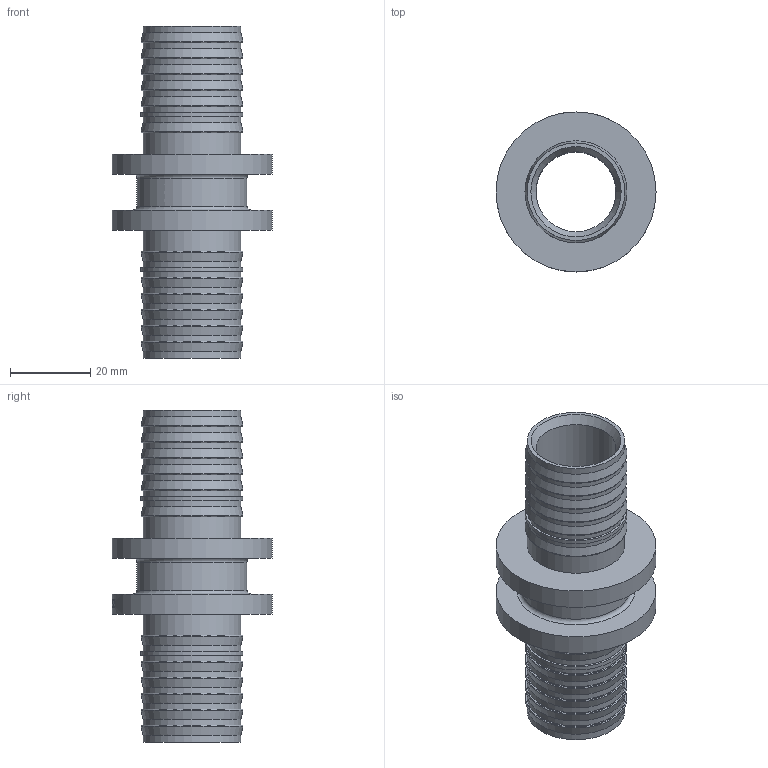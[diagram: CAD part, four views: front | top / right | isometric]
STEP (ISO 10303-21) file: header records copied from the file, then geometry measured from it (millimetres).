
FILE_DESCRIPTION(/* description */ (''),/* implementation_level */ '2;1');
FILE_NAME(/* name */ 'C:\Users\Doom\Desktop\Фадотех\Натяжка\SFM04_NEW 29.05.2020\SFM04_NEW 29.05.2020.stp',/* time_stamp */ '2022-07-25T12:52:27+03:00',/* author */ ('Doom'),/* organization */ (''),/* preprocessor_version */ 'ST-DEVELOPER v18',/* originating_system */ 'Autodesk Inventor 2020',/* authorisation */ '');
FILE_SCHEMA (('AUTOMOTIVE_DESIGN { 1 0 10303 214 3 1 1 }'));
Length unit declared in the file: millimetre
Products named in the file (1): SFM03_NEW 29.05.2020
Bounding box: 40 x 40 x 83 mm (x, y, z)
Volume: 22388.7 mm3; surface area: 15929 mm2
Topology: 1 solids, 1 shells, 197 faces, 562 edges, 394 vertices
Faces by surface type: bspline 77, plane 63, cylinder 29, torus 14, cone 14
Full cylindrical faces by diameter (mm): 20 x1, 24.4 x16, 25.5 x2, 27.5 x1, 40 x2
Entity records: 8426 total; most frequent: CARTESIAN_POINT 3491, ORIENTED_EDGE 1124, DIRECTION 866, EDGE_CURVE 562, VERTEX_POINT 394, AXIS2_PLACEMENT_3D 337, EDGE_LOOP 226, CIRCLE 216
